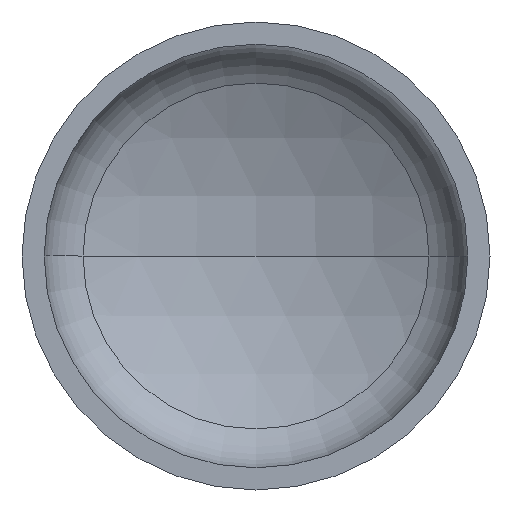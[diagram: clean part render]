
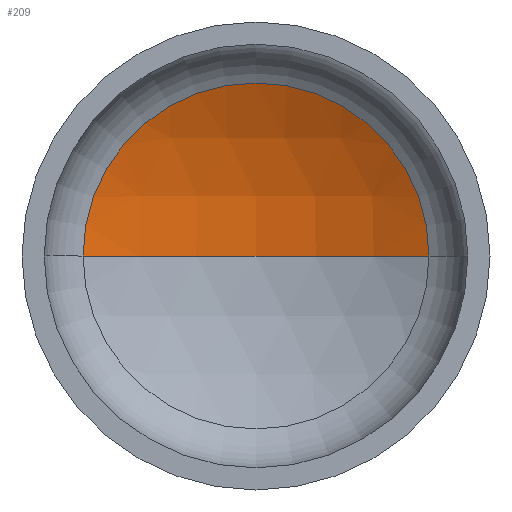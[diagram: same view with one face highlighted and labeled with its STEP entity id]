
A CAD part, front view. The second image highlights one B-rep face of the part: STEP entity #209.
In plain terms, the highlighted spherical face has radius 880 mm.
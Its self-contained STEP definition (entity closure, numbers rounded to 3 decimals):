
#8 = ORIENTED_EDGE ( 'NONE', *, *, #346, .T. ) ;
#9 = AXIS2_PLACEMENT_3D ( 'NONE', #306, #173, #174 ) ;
#11 = AXIS2_PLACEMENT_3D ( 'NONE', #50, #237, #241 ) ;
#25 = DIRECTION ( 'NONE',  ( 1., 0., 0. ) ) ;
#29 = EDGE_LOOP ( 'NONE', ( #94, #8, #152 ) ) ;
#32 = AXIS2_PLACEMENT_3D ( 'NONE', #280, #191, #270 ) ;
#36 = AXIS2_PLACEMENT_3D ( 'NONE', #350, #236, #25 ) ;
#50 = CARTESIAN_POINT ( 'NONE',  ( 0., -509.695, 0. ) ) ;
#79 = VERTEX_POINT ( 'NONE', #208 ) ;
#86 = VERTEX_POINT ( 'NONE', #334 ) ;
#94 = ORIENTED_EDGE ( 'NONE', *, *, #347, .F. ) ;
#97 = EDGE_CURVE ( 'NONE', #79, #86, #182, .T. ) ;
#152 = ORIENTED_EDGE ( 'NONE', *, *, #97, .T. ) ;
#160 = VERTEX_POINT ( 'NONE', #211 ) ;
#173 = DIRECTION ( 'NONE',  ( 0., 0., 1. ) ) ;
#174 = DIRECTION ( 'NONE',  ( 1., 0., 0. ) ) ;
#182 = CIRCLE ( 'NONE', #36, 406.535 ) ;
#191 = DIRECTION ( 'NONE',  ( 0., 0., -1. ) ) ;
#208 = CARTESIAN_POINT ( 'NONE',  ( 406.535, 270.772, 0. ) ) ;
#209 = ADVANCED_FACE ( 'NONE', ( #409 ), #357, .F. ) ;
#211 = CARTESIAN_POINT ( 'NONE',  ( 0., 370.305, 0. ) ) ;
#216 = CIRCLE ( 'NONE', #11, 880. ) ;
#236 = DIRECTION ( 'NONE',  ( 0., -1., 0. ) ) ;
#237 = DIRECTION ( 'NONE',  ( 0., 0., -1. ) ) ;
#241 = DIRECTION ( 'NONE',  ( -1., 0., 0. ) ) ;
#270 = DIRECTION ( 'NONE',  ( -1., 0., 0. ) ) ;
#280 = CARTESIAN_POINT ( 'NONE',  ( 0., -509.695, 0. ) ) ;
#306 = CARTESIAN_POINT ( 'NONE',  ( 0., -509.695, 0. ) ) ;
#330 = CIRCLE ( 'NONE', #9, 880. ) ;
#334 = CARTESIAN_POINT ( 'NONE',  ( -406.535, 270.772, 0. ) ) ;
#346 = EDGE_CURVE ( 'NONE', #160, #79, #216, .T. ) ;
#347 = EDGE_CURVE ( 'NONE', #160, #86, #330, .T. ) ;
#350 = CARTESIAN_POINT ( 'NONE',  ( 0., 270.772, 0. ) ) ;
#357 = SPHERICAL_SURFACE ( 'NONE', #32, 880. ) ;
#409 = FACE_OUTER_BOUND ( 'NONE', #29, .T. ) ;
